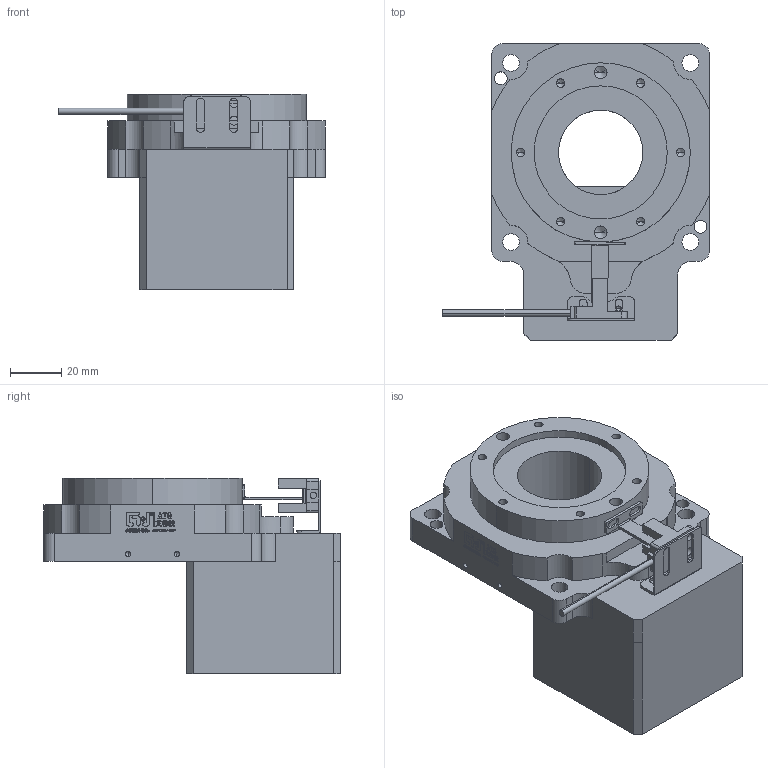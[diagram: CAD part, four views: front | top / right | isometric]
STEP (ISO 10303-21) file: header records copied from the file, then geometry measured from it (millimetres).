
FILE_DESCRIPTION (( 'STEP AP214' ), '1' );
FILE_NAME ('GT85-C-10-14-50-70-M4-2.STEP', '2024-07-02T00:38:12', ( '' ), ( '' ), 'SwSTEP 2.0', 'SolidWorks 2021', '' );
FILE_SCHEMA (( 'AUTOMOTIVE_DESIGN' ));
Length unit declared in the file: millimetre
Products named in the file (1): GT85-C-10-14-50-70-M4-2
Bounding box: 104.3 x 115.8 x 76.5 mm (x, y, z)
Volume: 316341.3 mm3; surface area: 49025.3 mm2
Topology: 4 solids, 6 shells, 1135 faces, 3102 edges, 2034 vertices
Faces by surface type: plane 641, bspline 306, cylinder 148, cone 40
Entity records: 61848 total; most frequent: CARTESIAN_POINT 22524, ORIENTED_EDGE 6124, DIRECTION 4408, EDGE_CURVE 3062, LINE 2148, VECTOR 2148, VERTEX_POINT 2034, EDGE_LOOP 1260
